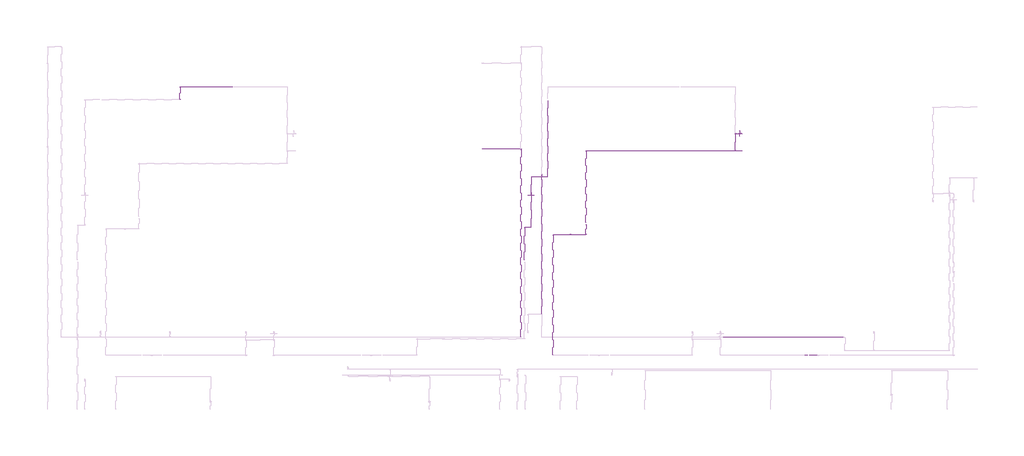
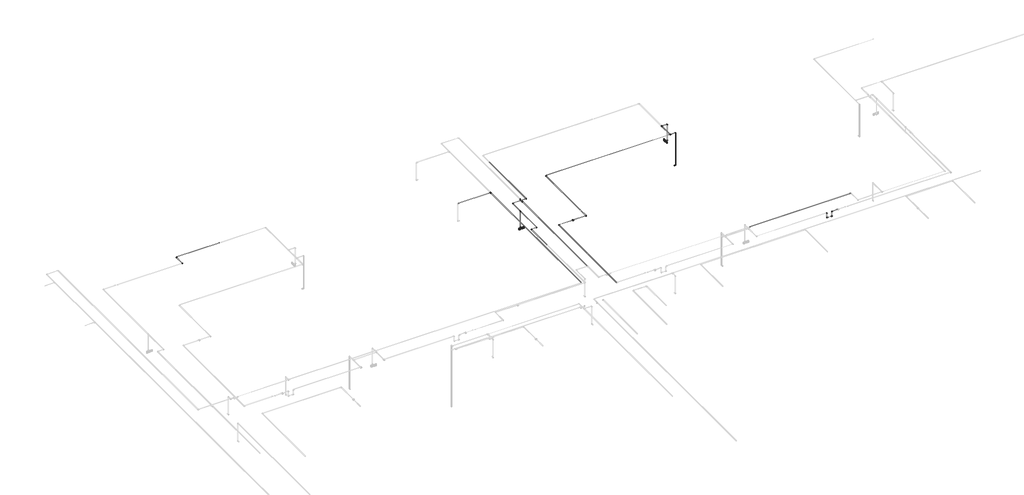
# One storey, part 9 of 13: 35 cable carrier segments, 26 cable carrier fittings, 3 alarms.
"""IFC4 building model written with IfcOpenShell, lengths in millimetres."""

from ifc_helpers import new_model, si_unit, point, frame, frame_2d, origin, place, context, project, spatial, circle_curve, trimmed, segment, composite_curve, outline, extrude, transform, mapped, element, save
from components import alarm_4b7e8fd8, alarm_a2247946, cable_carrier_fitting_69f1a801, cable_carrier_fitting_8122f9af, cable_carrier_fitting_8fd13dfc

model = new_model("IFC4")

# Units and contexts
model_context = context("Model", 3, world=origin())
ifc_project = project(units=[si_unit("LENGTHUNIT", "METRE", prefix="MILLI")], contexts=[model_context])

# Site, building, storey
site = spatial("IfcSite", under=ifc_project)
building = spatial("IfcBuilding", under=site)
storey = spatial("IfcBuildingStorey", under=building, Name="2 этаж", Elevation=3500.0)

# Alarms
placement = place(None, origin())
alarm_shape = alarm_4b7e8fd8(model_context)
element("IfcAlarm", 1, ObjectType="RBZ_Оповещатель_Световой_Рубеж_ОПОП1-R3(грань) : ОПОП 1-R3 \"Выход\"", at=placement, inside=storey, context=model_context, shape_type="MappedRepresentation", body=[
    mapped(alarm_shape, transform((-3772.3240021, 15922.1370105, 6000.0), x_axis=(0.0, -1.0, 0.0), y_axis=(0.0, 0.0, 1.0), z_axis=(-1.0, 0.0, 0.0))),
])
element("IfcAlarm", 2, ObjectType="RBZ_Оповещатель_Световой_Рубеж_ОПОП1-R3(грань) : ОПОП 1-R3 \"Выход\"", at=placement, inside=storey, context=model_context, shape_type="MappedRepresentation", body=[
    mapped(alarm_shape, transform((-13889.8240021, 12944.6370105, 6000.0), x_axis=(1.0, 0.0, 0.0), y_axis=(0.0, 0.0, 1.0), z_axis=(0.0, -1.0, 0.0))),
])
alarm_2_shape = alarm_a2247946(model_context)
element("IfcAlarm", 3, ObjectType="RBZ_ИзоляторШлейфа_Рубеж_ИЗ-1_прот.R3(плоскость) : ИЗ-1 прот.R3", at=placement, inside=storey, context=model_context, shape_type="MappedRepresentation", body=[
    mapped(alarm_2_shape, transform((-11992.3240021, 11020.3380679, 6997.7), x_axis=(1.0, 0.0, 0.0), y_axis=(0.0, 1.0, 0.0), z_axis=(0.0, 0.0, 1.0))),
])

# Cable carrier fittings
cable_carrier_fitting_shape = cable_carrier_fitting_69f1a801(model_context)
element("IfcCableCarrierFitting", 4, ObjectType="ADSK_Поворот_Минимальный размер : Неспецифицируемый", at=placement, inside=storey, context=model_context, shape_type="MappedRepresentation", body=[
    mapped(cable_carrier_fitting_shape, transform((-30925.8240021, 17569.6370105, 6986.95), x_axis=(1.0, 0.0, 0.0), y_axis=(0.0, 1.0, 0.0), z_axis=(0.0, 0.0, 1.0))),
])
element("IfcCableCarrierFitting", 5, ObjectType="ADSK_Поворот_Минимальный размер : Неспецифицируемый", at=placement, inside=storey, context=model_context, shape_type="MappedRepresentation", body=[
    mapped(cable_carrier_fitting_shape, transform((-30925.8240021, 18189.6370105, 6986.95), x_axis=(-1.0, 0.0, 0.0), y_axis=(0.0, -1.0, 0.0), z_axis=(0.0, 0.0, 1.0))),
])
element("IfcCableCarrierFitting", 6, ObjectType="ADSK_Поворот_Минимальный размер : Неспецифицируемый", at=placement, inside=storey, context=model_context, shape_type="MappedRepresentation", body=[
    mapped(cable_carrier_fitting_shape, transform((-13889.8240021, 13823.1370105, 6984.65), x_axis=(-1.0, 0.0, 0.0), y_axis=(0.0, -1.0, 0.0), z_axis=(0.0, 0.0, 1.0))),
])
element("IfcCableCarrierFitting", 7, ObjectType="ADSK_Поворот_Минимальный размер : Неспецифицируемый", at=placement, inside=storey, context=model_context, shape_type="MappedRepresentation", body=[
    mapped(cable_carrier_fitting_shape, transform((-13092.3240021, 13823.1370105, 6984.65), x_axis=(1.0, 0.0, 0.0), y_axis=(0.0, 1.0, 0.0), z_axis=(0.0, 0.0, 1.0))),
])
element("IfcCableCarrierFitting", 8, ObjectType="ADSK_Поворот_Минимальный размер : Неспецифицируемый", at=placement, inside=storey, context=model_context, shape_type="MappedRepresentation", body=[
    mapped(cable_carrier_fitting_shape, transform((-14212.3240021, 11376.1370105, 6984.65), x_axis=(-1.0, 0.0, 0.0), y_axis=(0.0, -1.0, 0.0), z_axis=(0.0, 0.0, 1.0))),
])
element("IfcCableCarrierFitting", 9, ObjectType="ADSK_Поворот_Минимальный размер : Неспецифицируемый", at=placement, inside=storey, context=model_context, shape_type="MappedRepresentation", body=[
    mapped(cable_carrier_fitting_shape, transform((-13889.8240021, 11376.1370105, 6984.65), x_axis=(1.0, 0.0, 0.0), y_axis=(0.0, 1.0, 0.0), z_axis=(0.0, 0.0, 1.0))),
])
element("IfcCableCarrierFitting", 10, ObjectType="ADSK_Поворот_Минимальный размер : Неспецифицируемый", at=placement, inside=storey, context=model_context, shape_type="MappedRepresentation", body=[
    mapped(cable_carrier_fitting_shape, transform((-11227.3240021, 15082.1370105, 6986.95), x_axis=(-1.0, 0.0, 0.0), y_axis=(0.0, -1.0, 0.0), z_axis=(0.0, 0.0, 1.0))),
])
element("IfcCableCarrierFitting", 11, ObjectType="ADSK_Поворот_Минимальный размер : Неспецифицируемый", at=placement, inside=storey, context=model_context, shape_type="MappedRepresentation", body=[
    mapped(cable_carrier_fitting_shape, transform((-11227.3240021, 11020.3380679, 6986.95), x_axis=(1.0, 0.0, 0.0), y_axis=(0.0, 1.0, 0.0), z_axis=(0.0, 0.0, 1.0))),
])
element("IfcCableCarrierFitting", 12, ObjectType="ADSK_Поворот_Минимальный размер : Неспецифицируемый", at=placement, inside=storey, context=model_context, shape_type="MappedRepresentation", body=[
    mapped(cable_carrier_fitting_shape, transform((-606.0238077, 5164.6370105, 6691.5753772), x_axis=(-1.0, 0.0, 0.0), y_axis=(0.0, 0.0, 1.0), z_axis=(0.0, 1.0, 0.0))),
])
element("IfcCableCarrierFitting", 13, ObjectType="ADSK_Поворот_Минимальный размер : Неспецифицируемый", at=placement, inside=storey, context=model_context, shape_type="MappedRepresentation", body=[
    mapped(cable_carrier_fitting_shape, transform((-606.0238077, 5164.6370105, 6990.0), x_axis=(0.0, 0.0, 1.0), y_axis=(-1.0, 0.0, 0.0), z_axis=(0.0, -1.0, 0.0))),
])
element("IfcCableCarrierFitting", 14, ObjectType="ADSK_Поворот_Минимальный размер : Неспецифицируемый", at=placement, inside=storey, context=model_context, shape_type="MappedRepresentation", body=[
    mapped(cable_carrier_fitting_shape, transform((-318.6241965, 5164.6370105, 6691.5753772), x_axis=(1.0, 0.0, 0.0), y_axis=(0.0, 0.0, 1.0), z_axis=(0.0, -1.0, 0.0))),
])
element("IfcCableCarrierFitting", 15, ObjectType="ADSK_Поворот_Минимальный размер : Неспецифицируемый", at=placement, inside=storey, context=model_context, shape_type="MappedRepresentation", body=[
    mapped(cable_carrier_fitting_shape, transform((-318.6241965, 5164.6370105, 6986.95), x_axis=(0.0, 0.0, 1.0), y_axis=(1.0, 0.0, 0.0), z_axis=(0.0, 1.0, 0.0))),
])
element("IfcCableCarrierFitting", 16, ObjectType="ADSK_Поворот_Минимальный размер : Неспецифицируемый", at=placement, inside=storey, context=model_context, shape_type="MappedRepresentation", body=[
    mapped(cable_carrier_fitting_shape, transform((-12827.3240021, 11020.3380679, 6986.95), x_axis=(-1.0, 0.0, 0.0), y_axis=(0.0, -1.0, 0.0), z_axis=(0.0, 0.0, 1.0))),
])
element("IfcCableCarrierFitting", 17, ObjectType="ADSK_Поворот_Минимальный размер : Неспецифицируемый", at=placement, inside=storey, context=model_context, shape_type="MappedRepresentation", body=[
    mapped(cable_carrier_fitting_shape, transform((-3675.1241965, 15922.1370105, 6000.0), x_axis=(1.0, 0.0, 0.0), y_axis=(0.0, 0.0, 1.0), z_axis=(0.0, -1.0, 0.0))),
])
element("IfcCableCarrierFitting", 18, ObjectType="ADSK_Поворот_Минимальный размер : Неспецифицируемый", at=placement, inside=storey, context=model_context, shape_type="MappedRepresentation", body=[
    mapped(cable_carrier_fitting_shape, transform((-3675.1241965, 15922.1370105, 6986.95), x_axis=(0.0, 0.0, 1.0), y_axis=(-1.0, 0.0, 0.0), z_axis=(0.0, -1.0, 0.0))),
])
element("IfcCableCarrierFitting", 19, ObjectType="ADSK_Поворот_Минимальный размер : Неспецифицируемый", at=placement, inside=storey, context=model_context, shape_type="MappedRepresentation", body=[
    mapped(cable_carrier_fitting_shape, transform((-3675.1241965, 15082.1370105, 5000.0), x_axis=(1.0, 0.0, 0.0), y_axis=(0.0, 0.0, 1.0), z_axis=(0.0, -1.0, 0.0))),
])
element("IfcCableCarrierFitting", 20, ObjectType="ADSK_Поворот_Минимальный размер : Неспецифицируемый", at=placement, inside=storey, context=model_context, shape_type="MappedRepresentation", body=[
    mapped(cable_carrier_fitting_shape, transform((-3675.1241965, 15082.1370105, 6986.95), x_axis=(0.0, 0.0, 1.0), y_axis=(-1.0, 0.0, 0.0), z_axis=(0.0, -1.0, 0.0))),
])
element("IfcCableCarrierFitting", 21, ObjectType="ADSK_Поворот_Минимальный размер : Неспецифицируемый", at=placement, inside=storey, context=model_context, shape_type="MappedRepresentation", body=[
    mapped(cable_carrier_fitting_shape, transform((-13889.8240021, 13041.8368161, 6000.0), x_axis=(0.0, 1.0, 0.0), y_axis=(0.0, 0.0, 1.0), z_axis=(1.0, 0.0, 0.0))),
])
cable_carrier_fitting_2_shape = cable_carrier_fitting_8122f9af(model_context)
element("IfcCableCarrierFitting", 22, ObjectType="ADSK_Поворот_Минимальный размер : Неспецифицируемый", at=placement, inside=storey, context=model_context, shape_type="MappedRepresentation", body=[
    mapped(cable_carrier_fitting_2_shape, transform((-13382.3240021, 13889.7092818, 6940.0), x_axis=(0.0, -0.7071067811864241, -0.7071067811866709), y_axis=(0.0, -0.7071067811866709, 0.7071067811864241), z_axis=(-1.0, 0.0, 0.0))),
])
element("IfcCableCarrierFitting", 23, ObjectType="ADSK_Поворот_Минимальный размер : Неспецифицируемый", at=placement, inside=storey, context=model_context, shape_type="MappedRepresentation", body=[
    mapped(cable_carrier_fitting_2_shape, transform((-13382.3240021, 13756.5647393, 6940.0), x_axis=(0.0, -1.0, 0.0), y_axis=(0.0, 0.0, 1.0), z_axis=(-1.0, 0.0, 0.0))),
])
element("IfcCableCarrierFitting", 24, ObjectType="ADSK_Поворот_Минимальный размер : Неспецифицируемый", at=placement, inside=storey, context=model_context, shape_type="MappedRepresentation", body=[
    mapped(cable_carrier_fitting_2_shape, transform((-13382.3240021, 13706.5647393, 6990.0), x_axis=(0.0, -0.7071067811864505, 0.7071067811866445), y_axis=(0.0, -0.7071067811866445, -0.7071067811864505), z_axis=(1.0, 0.0, 0.0))),
])
element("IfcCableCarrierFitting", 25, ObjectType="ADSK_Поворот_Минимальный размер : Неспецифицируемый", at=placement, inside=storey, context=model_context, shape_type="MappedRepresentation", body=[
    mapped(cable_carrier_fitting_2_shape, transform((-13382.3240021, 13939.7092818, 6990.0), x_axis=(0.0, 0.7071067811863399, 0.7071067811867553), y_axis=(0.0, 0.7071067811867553, -0.7071067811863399), z_axis=(-1.0, 0.0, 0.0))),
])
cable_carrier_fitting_3_shape = cable_carrier_fitting_8fd13dfc(model_context)
element("IfcCableCarrierFitting", 26, ObjectType="ADSK_Тройник : ПВХ", at=placement, inside=storey, context=model_context, shape_type="MappedRepresentation", body=[
    mapped(cable_carrier_fitting_3_shape, transform((-14382.3240021, 15172.1370105, 6990.0), x_axis=(0.0, -1.0, 0.0), y_axis=(1.0, 0.0, 0.0), z_axis=(0.0, 0.0, 1.0))),
])
element("IfcCableCarrierFitting", 27, ObjectType="ADSK_Тройник : ПВХ", at=placement, inside=storey, context=model_context, shape_type="MappedRepresentation", body=[
    mapped(cable_carrier_fitting_3_shape, transform((-3999.8077923, 15922.1370105, 6986.95), x_axis=(0.0, 1.0, 0.0), y_axis=(-1.0, 0.0, 0.0), z_axis=(0.0, 0.0, 1.0))),
])
element("IfcCableCarrierFitting", 28, ObjectType="ADSK_Тройник : ПВХ", at=placement, inside=storey, context=model_context, shape_type="MappedRepresentation", body=[
    mapped(cable_carrier_fitting_3_shape, transform((-3999.8077923, 15082.1370105, 6986.95), x_axis=(-1.0, 0.0, 0.0), y_axis=(0.0, -1.0, 0.0), z_axis=(0.0, 0.0, 1.0))),
])
element("IfcCableCarrierFitting", 29, ObjectType="ADSK_Тройник : ПВХ", at=placement, inside=storey, context=model_context, shape_type="MappedRepresentation", body=[
    mapped(cable_carrier_fitting_3_shape, transform((-13889.8240021, 13041.8368161, 6984.65), x_axis=(0.0, -1.0, 0.0), y_axis=(0.0, 0.0, 1.0), z_axis=(-1.0, 0.0, 0.0))),
])

# Cable carrier segments
element("IfcCableCarrierSegment", 30, ObjectType="Гофрированная труба", at=placement, inside=storey, context=model_context, shape_type="SweptSolid", body=[
    extrude(outline(composite_curve([segment(trimmed(circle_curve(frame_2d((6986.95, -30925.8240021)), 10.0), [point((6986.95, -30915.8240021))], [point((6996.95, -30925.8240021))], False, "CARTESIAN"), True, "CONTINUOUS"), segment(trimmed(circle_curve(frame_2d((6986.95, -30925.8240021)), 10.0), [point((6996.95, -30925.8240021))], [point((6986.95, -30935.8240021))], False, "CARTESIAN"), True, "CONTINUOUS"), segment(trimmed(circle_curve(frame_2d((6986.95, -30925.8240021)), 10.0), [point((6986.95, -30935.8240021))], [point((6976.95, -30925.8240021))], False, "CARTESIAN"), True, "CONTINUOUS"), segment(trimmed(circle_curve(frame_2d((6986.95, -30925.8240021)), 10.0), [point((6976.95, -30925.8240021))], [point((6986.95, -30915.8240021))], False, "CARTESIAN"), True, "CONTINUOUS")], self_intersect=False)), frame((0.0, 17590.6370105, 0.0), z_axis=(0.0, 1.0, 0.0), x_axis=(0.0, 0.0, 1.0)), (0.0, 0.0, 1.0), 578.0),
])
element("IfcCableCarrierSegment", 31, ObjectType="Гофрированная труба", at=placement, inside=storey, context=model_context, shape_type="SweptSolid", body=[
    extrude(outline(composite_curve([segment(trimmed(circle_curve(frame_2d((18189.6370105, 6986.95)), 10.0), [point((18179.6370105, 6986.95))], [point((18189.6370105, 6996.95))], False, "CARTESIAN"), True, "CONTINUOUS"), segment(trimmed(circle_curve(frame_2d((18189.6370105, 6986.95)), 10.0), [point((18189.6370105, 6996.95))], [point((18199.6370105, 6986.95))], False, "CARTESIAN"), True, "CONTINUOUS"), segment(trimmed(circle_curve(frame_2d((18189.6370105, 6986.95)), 10.0), [point((18199.6370105, 6986.95))], [point((18189.6370105, 6976.95))], False, "CARTESIAN"), True, "CONTINUOUS"), segment(trimmed(circle_curve(frame_2d((18189.6370105, 6986.95)), 10.0), [point((18189.6370105, 6976.95))], [point((18179.6370105, 6986.95))], False, "CARTESIAN"), True, "CONTINUOUS")], self_intersect=False)), frame((-30904.8240021, 0.0, 0.0), z_axis=(1.0, 0.0, 0.0), x_axis=(0.0, 1.0, 0.0)), (0.0, 0.0, 1.0), 2506.0),
])
element("IfcCableCarrierSegment", 32, ObjectType="Гофрированная труба", at=placement, inside=storey, context=model_context, shape_type="SweptSolid", body=[
    extrude(outline(composite_curve([segment(trimmed(circle_curve(frame_2d((0.0, -10.0)), 10.0), [point((0.0, 0.0))], [point((10.0, -10.0))], False, "CARTESIAN"), True, "CONTINUOUS"), segment(trimmed(circle_curve(frame_2d((0.0, -10.0)), 10.0), [point((10.0, -10.0))], [point((0.0, -20.0))], False, "CARTESIAN"), True, "CONTINUOUS"), segment(trimmed(circle_curve(frame_2d((0.0, -10.0)), 10.0), [point((0.0, -20.0))], [point((-10.0, -10.0))], False, "CARTESIAN"), True, "CONTINUOUS"), segment(trimmed(circle_curve(frame_2d((0.0, -10.0)), 10.0), [point((-10.0, -10.0))], [point((0.0, 0.0))], False, "CARTESIAN"), True, "CONTINUOUS")], self_intersect=False)), frame((-13102.3240021, 13844.1370105, 6984.65), z_axis=(0.0, 0.999999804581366, 0.0006251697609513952), x_axis=(0.0, 0.0006251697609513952, -0.999999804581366)), (0.0, 0.0, 1.0), 3679.0007189),
])
element("IfcCableCarrierSegment", 33, ObjectType="Гофрированная труба", at=placement, inside=storey, context=model_context, shape_type="SweptSolid", body=[
    extrude(outline(composite_curve([segment(trimmed(circle_curve(frame_2d((13823.1370105, 6984.65)), 10.0), [point((13813.1370105, 6984.65))], [point((13823.1370105, 6994.65))], False, "CARTESIAN"), True, "CONTINUOUS"), segment(trimmed(circle_curve(frame_2d((13823.1370105, 6984.65)), 10.0), [point((13823.1370105, 6994.65))], [point((13833.1370105, 6984.65))], False, "CARTESIAN"), True, "CONTINUOUS"), segment(trimmed(circle_curve(frame_2d((13823.1370105, 6984.65)), 10.0), [point((13833.1370105, 6984.65))], [point((13823.1370105, 6974.65))], False, "CARTESIAN"), True, "CONTINUOUS"), segment(trimmed(circle_curve(frame_2d((13823.1370105, 6984.65)), 10.0), [point((13823.1370105, 6974.65))], [point((13813.1370105, 6984.65))], False, "CARTESIAN"), True, "CONTINUOUS")], self_intersect=False)), frame((-13868.8240021, 0.0, 0.0), z_axis=(1.0, 0.0, 0.0), x_axis=(0.0, 1.0, 0.0)), (0.0, 0.0, 1.0), 755.5),
])
element("IfcCableCarrierSegment", 34, ObjectType="Гофрированная труба", at=placement, inside=storey, context=model_context, shape_type="SweptSolid", body=[
    extrude(outline(composite_curve([segment(trimmed(circle_curve(frame_2d((6984.65, -14212.3240021)), 10.0), [point((6984.65, -14202.3240021))], [point((6994.65, -14212.3240021))], False, "CARTESIAN"), True, "CONTINUOUS"), segment(trimmed(circle_curve(frame_2d((6984.65, -14212.3240021)), 10.0), [point((6994.65, -14212.3240021))], [point((6984.65, -14222.3240021))], False, "CARTESIAN"), True, "CONTINUOUS"), segment(trimmed(circle_curve(frame_2d((6984.65, -14212.3240021)), 10.0), [point((6984.65, -14222.3240021))], [point((6974.65, -14212.3240021))], False, "CARTESIAN"), True, "CONTINUOUS"), segment(trimmed(circle_curve(frame_2d((6984.65, -14212.3240021)), 10.0), [point((6974.65, -14212.3240021))], [point((6984.65, -14202.3240021))], False, "CARTESIAN"), True, "CONTINUOUS")], self_intersect=False)), frame((0.0, 9776.1370105, 0.0), z_axis=(0.0, 1.0, 0.0), x_axis=(0.0, 0.0, 1.0)), (0.0, 0.0, 1.0), 1579.0),
])
element("IfcCableCarrierSegment", 35, ObjectType="Гофрированная труба", at=placement, inside=storey, context=model_context, shape_type="SweptSolid", body=[
    extrude(outline(composite_curve([segment(trimmed(circle_curve(frame_2d((11376.1370105, 6984.65)), 10.0), [point((11366.1370105, 6984.65))], [point((11376.1370105, 6994.65))], False, "CARTESIAN"), True, "CONTINUOUS"), segment(trimmed(circle_curve(frame_2d((11376.1370105, 6984.65)), 10.0), [point((11376.1370105, 6994.65))], [point((11386.1370105, 6984.65))], False, "CARTESIAN"), True, "CONTINUOUS"), segment(trimmed(circle_curve(frame_2d((11376.1370105, 6984.65)), 10.0), [point((11386.1370105, 6984.65))], [point((11376.1370105, 6974.65))], False, "CARTESIAN"), True, "CONTINUOUS"), segment(trimmed(circle_curve(frame_2d((11376.1370105, 6984.65)), 10.0), [point((11376.1370105, 6974.65))], [point((11366.1370105, 6984.65))], False, "CARTESIAN"), True, "CONTINUOUS")], self_intersect=False)), frame((-14191.3240021, 0.0, 0.0), z_axis=(1.0, 0.0, 0.0), x_axis=(0.0, 1.0, 0.0)), (0.0, 0.0, 1.0), 280.5),
])
element("IfcCableCarrierSegment", 36, ObjectType="Гофрированная труба", at=placement, inside=storey, context=model_context, shape_type="SweptSolid", body=[
    extrude(outline(composite_curve([segment(trimmed(circle_curve(frame_2d((6986.95, -11227.3240021)), 10.0), [point((6986.95, -11217.3240021))], [point((6996.95, -11227.3240021))], False, "CARTESIAN"), True, "CONTINUOUS"), segment(trimmed(circle_curve(frame_2d((6986.95, -11227.3240021)), 10.0), [point((6996.95, -11227.3240021))], [point((6986.95, -11237.3240021))], False, "CARTESIAN"), True, "CONTINUOUS"), segment(trimmed(circle_curve(frame_2d((6986.95, -11227.3240021)), 10.0), [point((6986.95, -11237.3240021))], [point((6976.95, -11227.3240021))], False, "CARTESIAN"), True, "CONTINUOUS"), segment(trimmed(circle_curve(frame_2d((6986.95, -11227.3240021)), 10.0), [point((6976.95, -11227.3240021))], [point((6986.95, -11217.3240021))], False, "CARTESIAN"), True, "CONTINUOUS")], self_intersect=False)), frame((0.0, 11613.3380679, 0.0), z_axis=(0.0, 1.0, 0.0), x_axis=(0.0, 0.0, 1.0)), (0.0, 0.0, 1.0), 3447.7989426),
])
element("IfcCableCarrierSegment", 37, ObjectType="Гофрированная труба", at=placement, inside=storey, context=model_context, shape_type="SweptSolid", body=[
    extrude(outline(composite_curve([segment(trimmed(circle_curve(frame_2d((6986.95, -11227.3240021)), 10.0), [point((6986.95, -11237.3240021))], [point((6976.95, -11227.3240021))], False, "CARTESIAN"), True, "CONTINUOUS"), segment(trimmed(circle_curve(frame_2d((6986.95, -11227.3240021)), 10.0), [point((6976.95, -11227.3240021))], [point((6986.95, -11217.3240021))], False, "CARTESIAN"), True, "CONTINUOUS"), segment(trimmed(circle_curve(frame_2d((6986.95, -11227.3240021)), 10.0), [point((6986.95, -11217.3240021))], [point((6996.95, -11227.3240021))], False, "CARTESIAN"), True, "CONTINUOUS"), segment(trimmed(circle_curve(frame_2d((6986.95, -11227.3240021)), 10.0), [point((6996.95, -11227.3240021))], [point((6986.95, -11237.3240021))], False, "CARTESIAN"), True, "CONTINUOUS")], self_intersect=False)), frame((0.0, 11041.3380679, 0.0), z_axis=(0.0, 1.0, 0.0), x_axis=(0.0, 0.0, 1.0)), (0.0, 0.0, 1.0), 479.0),
])
element("IfcCableCarrierSegment", 38, ObjectType="Гофрированная труба", at=placement, inside=storey, context=model_context, shape_type="SweptSolid", body=[
    extrude(outline(composite_curve([segment(trimmed(circle_curve(frame_2d((11020.3380679, 6986.95)), 10.0), [point((11010.3380679, 6986.95))], [point((11020.3380679, 6996.95))], False, "CARTESIAN"), True, "CONTINUOUS"), segment(trimmed(circle_curve(frame_2d((11020.3380679, 6986.95)), 10.0), [point((11020.3380679, 6996.95))], [point((11030.3380679, 6986.95))], False, "CARTESIAN"), True, "CONTINUOUS"), segment(trimmed(circle_curve(frame_2d((11020.3380679, 6986.95)), 10.0), [point((11030.3380679, 6986.95))], [point((11020.3380679, 6976.95))], False, "CARTESIAN"), True, "CONTINUOUS"), segment(trimmed(circle_curve(frame_2d((11020.3380679, 6986.95)), 10.0), [point((11020.3380679, 6976.95))], [point((11010.3380679, 6986.95))], False, "CARTESIAN"), True, "CONTINUOUS")], self_intersect=False)), frame((-12806.3240021, 0.0, 0.0), z_axis=(1.0, 0.0, 0.0), x_axis=(0.0, 1.0, 0.0)), (0.0, 0.0, 1.0), 788.0),
])
element("IfcCableCarrierSegment", 39, ObjectType="Гофрированная труба", at=placement, inside=storey, context=model_context, shape_type="SweptSolid", body=[
    extrude(outline(composite_curve([segment(trimmed(circle_curve(frame_2d((6986.95, -12827.3240021)), 10.0), [point((6986.95, -12817.3240021))], [point((6996.95, -12827.3240021))], False, "CARTESIAN"), True, "CONTINUOUS"), segment(trimmed(circle_curve(frame_2d((6986.95, -12827.3240021)), 10.0), [point((6996.95, -12827.3240021))], [point((6986.95, -12837.3240021))], False, "CARTESIAN"), True, "CONTINUOUS"), segment(trimmed(circle_curve(frame_2d((6986.95, -12827.3240021)), 10.0), [point((6986.95, -12837.3240021))], [point((6976.95, -12827.3240021))], False, "CARTESIAN"), True, "CONTINUOUS"), segment(trimmed(circle_curve(frame_2d((6986.95, -12827.3240021)), 10.0), [point((6976.95, -12827.3240021))], [point((6986.95, -12817.3240021))], False, "CARTESIAN"), True, "CONTINUOUS")], self_intersect=False)), frame((0.0, 5185.6370105, 0.0), z_axis=(0.0, 1.0, 0.0), x_axis=(0.0, 0.0, 1.0)), (0.0, 0.0, 1.0), 5813.7010574),
])
element("IfcCableCarrierSegment", 40, ObjectType="Гофрированная труба", at=placement, inside=storey, context=model_context, shape_type="SweptSolid", body=[
    extrude(outline(composite_curve([segment(trimmed(circle_curve(frame_2d((5164.6370105, 6691.5753772)), 10.0), [point((5174.6370105, 6691.5753772))], [point((5164.6370105, 6681.5753772))], False, "CARTESIAN"), True, "CONTINUOUS"), segment(trimmed(circle_curve(frame_2d((5164.6370105, 6691.5753772)), 10.0), [point((5164.6370105, 6681.5753772))], [point((5154.6370105, 6691.5753772))], False, "CARTESIAN"), True, "CONTINUOUS"), segment(trimmed(circle_curve(frame_2d((5164.6370105, 6691.5753772)), 10.0), [point((5154.6370105, 6691.5753772))], [point((5164.6370105, 6701.5753772))], False, "CARTESIAN"), True, "CONTINUOUS"), segment(trimmed(circle_curve(frame_2d((5164.6370105, 6691.5753772)), 10.0), [point((5164.6370105, 6701.5753772))], [point((5174.6370105, 6691.5753772))], False, "CARTESIAN"), True, "CONTINUOUS")], self_intersect=False)), frame((-585.0238077, 0.0, 0.0), z_axis=(1.0, 0.0, 0.0), x_axis=(0.0, 1.0, 0.0)), (0.0, 0.0, 1.0), 76.1998056),
])
element("IfcCableCarrierSegment", 41, ObjectType="Гофрированная труба", at=placement, inside=storey, context=model_context, shape_type="SweptSolid", body=[
    extrude(outline(composite_curve([segment(trimmed(circle_curve(frame_2d((-606.0238077, 5164.6370105)), 10.0), [point((-616.0238077, 5164.6370105))], [point((-606.0238077, 5174.6370105))], False, "CARTESIAN"), True, "CONTINUOUS"), segment(trimmed(circle_curve(frame_2d((-606.0238077, 5164.6370105)), 10.0), [point((-606.0238077, 5174.6370105))], [point((-596.0238077, 5164.6370105))], False, "CARTESIAN"), True, "CONTINUOUS"), segment(trimmed(circle_curve(frame_2d((-606.0238077, 5164.6370105)), 10.0), [point((-596.0238077, 5164.6370105))], [point((-606.0238077, 5154.6370105))], False, "CARTESIAN"), True, "CONTINUOUS"), segment(trimmed(circle_curve(frame_2d((-606.0238077, 5164.6370105)), 10.0), [point((-606.0238077, 5154.6370105))], [point((-616.0238077, 5164.6370105))], False, "CARTESIAN"), True, "CONTINUOUS")], self_intersect=False)), frame((0.0, 0.0, 6712.5753772), z_axis=(0.0, 0.0, 1.0), x_axis=(1.0, 0.0, 0.0)), (0.0, 0.0, 1.0), 256.4246228),
])
element("IfcCableCarrierSegment", 42, ObjectType="Гофрированная труба", at=placement, inside=storey, context=model_context, shape_type="SweptSolid", body=[
    extrude(outline(composite_curve([segment(trimmed(circle_curve(frame_2d((5164.6370105, 6986.95)), 10.0), [point((5174.6370105, 6986.95))], [point((5164.6370105, 6976.95))], False, "CARTESIAN"), True, "CONTINUOUS"), segment(trimmed(circle_curve(frame_2d((5164.6370105, 6986.95)), 10.0), [point((5164.6370105, 6976.95))], [point((5154.6370105, 6986.95))], False, "CARTESIAN"), True, "CONTINUOUS"), segment(trimmed(circle_curve(frame_2d((5164.6370105, 6986.95)), 10.0), [point((5154.6370105, 6986.95))], [point((5164.6370105, 6996.95))], False, "CARTESIAN"), True, "CONTINUOUS"), segment(trimmed(circle_curve(frame_2d((5164.6370105, 6986.95)), 10.0), [point((5164.6370105, 6996.95))], [point((5174.6370105, 6986.95))], False, "CARTESIAN"), True, "CONTINUOUS")], self_intersect=False)), frame((-297.6241965, 0.0, 0.0), z_axis=(1.0, 0.0, 0.0), x_axis=(0.0, 1.0, 0.0)), (0.0, 0.0, 1.0), 308.4934771),
])
element("IfcCableCarrierSegment", 43, ObjectType="Гофрированная труба", at=placement, inside=storey, context=model_context, shape_type="SweptSolid", body=[
    extrude(outline(composite_curve([segment(trimmed(circle_curve(frame_2d((5164.6370105, 6691.5753772)), 10.0), [point((5154.6370105, 6691.5753772))], [point((5164.6370105, 6701.5753772))], False, "CARTESIAN"), True, "CONTINUOUS"), segment(trimmed(circle_curve(frame_2d((5164.6370105, 6691.5753772)), 10.0), [point((5164.6370105, 6701.5753772))], [point((5174.6370105, 6691.5753772))], False, "CARTESIAN"), True, "CONTINUOUS"), segment(trimmed(circle_curve(frame_2d((5164.6370105, 6691.5753772)), 10.0), [point((5174.6370105, 6691.5753772))], [point((5164.6370105, 6681.5753772))], False, "CARTESIAN"), True, "CONTINUOUS"), segment(trimmed(circle_curve(frame_2d((5164.6370105, 6691.5753772)), 10.0), [point((5164.6370105, 6681.5753772))], [point((5154.6370105, 6691.5753772))], False, "CARTESIAN"), True, "CONTINUOUS")], self_intersect=False)), frame((-415.8240021, 0.0, 0.0), z_axis=(1.0, 0.0, 0.0), x_axis=(0.0, 1.0, 0.0)), (0.0, 0.0, 1.0), 76.1998056),
])
element("IfcCableCarrierSegment", 44, ObjectType="Гофрированная труба", at=placement, inside=storey, context=model_context, shape_type="SweptSolid", body=[
    extrude(outline(composite_curve([segment(trimmed(circle_curve(frame_2d((-318.6241965, 5164.6370105)), 10.0), [point((-328.6241965, 5164.6370105))], [point((-318.6241965, 5174.6370105))], False, "CARTESIAN"), True, "CONTINUOUS"), segment(trimmed(circle_curve(frame_2d((-318.6241965, 5164.6370105)), 10.0), [point((-318.6241965, 5174.6370105))], [point((-308.6241965, 5164.6370105))], False, "CARTESIAN"), True, "CONTINUOUS"), segment(trimmed(circle_curve(frame_2d((-318.6241965, 5164.6370105)), 10.0), [point((-308.6241965, 5164.6370105))], [point((-318.6241965, 5154.6370105))], False, "CARTESIAN"), True, "CONTINUOUS"), segment(trimmed(circle_curve(frame_2d((-318.6241965, 5164.6370105)), 10.0), [point((-318.6241965, 5154.6370105))], [point((-328.6241965, 5164.6370105))], False, "CARTESIAN"), True, "CONTINUOUS")], self_intersect=False)), frame((0.0, 0.0, 6712.5753772), z_axis=(0.0, 0.0, 1.0), x_axis=(1.0, 0.0, 0.0)), (0.0, 0.0, 1.0), 253.3746228),
])
element("IfcCableCarrierSegment", 45, ObjectType="Гофрированная труба", at=placement, inside=storey, context=model_context, shape_type="SweptSolid", body=[
    extrude(outline(composite_curve([segment(trimmed(circle_curve(frame_2d((11020.3380679, 6986.95)), 10.0), [point((11030.3380679, 6986.95))], [point((11020.3380679, 6976.95))], False, "CARTESIAN"), True, "CONTINUOUS"), segment(trimmed(circle_curve(frame_2d((11020.3380679, 6986.95)), 10.0), [point((11020.3380679, 6976.95))], [point((11010.3380679, 6986.95))], False, "CARTESIAN"), True, "CONTINUOUS"), segment(trimmed(circle_curve(frame_2d((11020.3380679, 6986.95)), 10.0), [point((11010.3380679, 6986.95))], [point((11020.3380679, 6996.95))], False, "CARTESIAN"), True, "CONTINUOUS"), segment(trimmed(circle_curve(frame_2d((11020.3380679, 6986.95)), 10.0), [point((11020.3380679, 6996.95))], [point((11030.3380679, 6986.95))], False, "CARTESIAN"), True, "CONTINUOUS")], self_intersect=False)), frame((-11966.3240021, 0.0, 0.0), z_axis=(1.0, 0.0, 0.0), x_axis=(0.0, 1.0, 0.0)), (0.0, 0.0, 1.0), 718.0),
])
element("IfcCableCarrierSegment", 46, ObjectType="Гофрированная труба", at=placement, inside=storey, context=model_context, shape_type="SweptSolid", body=[
    extrude(outline(composite_curve([segment(trimmed(circle_curve(frame_2d((15172.1370105, 6990.0)), 10.0), [point((15182.1370105, 6990.0))], [point((15172.1370105, 6980.0))], False, "CARTESIAN"), True, "CONTINUOUS"), segment(trimmed(circle_curve(frame_2d((15172.1370105, 6990.0)), 10.0), [point((15172.1370105, 6980.0))], [point((15162.1370105, 6990.0))], False, "CARTESIAN"), True, "CONTINUOUS"), segment(trimmed(circle_curve(frame_2d((15172.1370105, 6990.0)), 10.0), [point((15162.1370105, 6990.0))], [point((15172.1370105, 7000.0))], False, "CARTESIAN"), True, "CONTINUOUS"), segment(trimmed(circle_curve(frame_2d((15172.1370105, 6990.0)), 10.0), [point((15172.1370105, 7000.0))], [point((15182.1370105, 6990.0))], False, "CARTESIAN"), True, "CONTINUOUS")], self_intersect=False)), frame((-16268.5238077, 0.0, 0.0), z_axis=(1.0, 0.0, 0.0), x_axis=(0.0, 1.0, 0.0)), (0.0, 0.0, 1.0), 1856.1998056),
])
element("IfcCableCarrierSegment", 47, ObjectType="Гофрированная труба", at=placement, inside=storey, context=model_context, shape_type="SweptSolid", body=[
    extrude(outline(composite_curve([segment(trimmed(circle_curve(frame_2d((6990.0, -14382.3240021)), 10.0), [point((6990.0, -14372.3240021))], [point((7000.0, -14382.3240021))], False, "CARTESIAN"), True, "CONTINUOUS"), segment(trimmed(circle_curve(frame_2d((6990.0, -14382.3240021)), 10.0), [point((7000.0, -14382.3240021))], [point((6990.0, -14392.3240021))], False, "CARTESIAN"), True, "CONTINUOUS"), segment(trimmed(circle_curve(frame_2d((6990.0, -14382.3240021)), 10.0), [point((6990.0, -14392.3240021))], [point((6980.0, -14382.3240021))], False, "CARTESIAN"), True, "CONTINUOUS"), segment(trimmed(circle_curve(frame_2d((6990.0, -14382.3240021)), 10.0), [point((6980.0, -14382.3240021))], [point((6990.0, -14372.3240021))], False, "CARTESIAN"), True, "CONTINUOUS")], self_intersect=False)), frame((0.0, 6058.6221207, 0.0), z_axis=(0.0, 1.0, 0.0), x_axis=(0.0, 0.0, 1.0)), (0.0, 0.0, 1.0), 9083.5148898),
])
element("IfcCableCarrierSegment", 48, ObjectType="Гофрированная труба", at=placement, inside=storey, context=model_context, shape_type="SweptSolid", body=[
    extrude(outline(composite_curve([segment(trimmed(circle_curve(frame_2d((6940.0, -13382.3240021)), 10.0), [point((6940.0, -13392.3240021))], [point((6930.0, -13382.3240021))], False, "CARTESIAN"), True, "CONTINUOUS"), segment(trimmed(circle_curve(frame_2d((6940.0, -13382.3240021)), 10.0), [point((6930.0, -13382.3240021))], [point((6940.0, -13372.3240021))], False, "CARTESIAN"), True, "CONTINUOUS"), segment(trimmed(circle_curve(frame_2d((6940.0, -13382.3240021)), 10.0), [point((6940.0, -13372.3240021))], [point((6950.0, -13382.3240021))], False, "CARTESIAN"), True, "CONTINUOUS"), segment(trimmed(circle_curve(frame_2d((6940.0, -13382.3240021)), 10.0), [point((6950.0, -13382.3240021))], [point((6940.0, -13392.3240021))], False, "CARTESIAN"), True, "CONTINUOUS")], self_intersect=False)), frame((0.0, 13765.8490105, 0.0), z_axis=(0.0, 1.0, 0.0), x_axis=(0.0, 0.0, 1.0)), (0.0, 0.0, 1.0), 114.576),
])
element("IfcCableCarrierSegment", 49, ObjectType="Гофрированная труба", at=placement, inside=storey, context=model_context, shape_type="SweptSolid", body=[
    extrude(outline(composite_curve([segment(trimmed(circle_curve(frame_2d((6037.6221207, 6990.0)), 10.0), [point((6027.6221207, 6990.0))], [point((6037.6221207, 7000.0))], False, "CARTESIAN"), True, "CONTINUOUS"), segment(trimmed(circle_curve(frame_2d((6037.6221207, 6990.0)), 10.0), [point((6037.6221207, 7000.0))], [point((6047.6221207, 6990.0))], False, "CARTESIAN"), True, "CONTINUOUS"), segment(trimmed(circle_curve(frame_2d((6037.6221207, 6990.0)), 10.0), [point((6047.6221207, 6990.0))], [point((6037.6221207, 6980.0))], False, "CARTESIAN"), True, "CONTINUOUS"), segment(trimmed(circle_curve(frame_2d((6037.6221207, 6990.0)), 10.0), [point((6037.6221207, 6980.0))], [point((6027.6221207, 6990.0))], False, "CARTESIAN"), True, "CONTINUOUS")], self_intersect=False)), frame((-4586.5371722, 0.0, 0.0), z_axis=(1.0, 0.0, 0.0), x_axis=(0.0, 1.0, 0.0)), (0.0, 0.0, 1.0), 5883.21317),
])
element("IfcCableCarrierSegment", 50, ObjectType="Гофрированная труба", at=placement, inside=storey, context=model_context, shape_type="SweptSolid", body=[
    extrude(outline(composite_curve([segment(trimmed(circle_curve(frame_2d((15922.1370105, 6986.95)), 10.0), [point((15912.1370105, 6986.95))], [point((15922.1370105, 6996.95))], False, "CARTESIAN"), True, "CONTINUOUS"), segment(trimmed(circle_curve(frame_2d((15922.1370105, 6986.95)), 10.0), [point((15922.1370105, 6996.95))], [point((15932.1370105, 6986.95))], False, "CARTESIAN"), True, "CONTINUOUS"), segment(trimmed(circle_curve(frame_2d((15922.1370105, 6986.95)), 10.0), [point((15932.1370105, 6986.95))], [point((15922.1370105, 6976.95))], False, "CARTESIAN"), True, "CONTINUOUS"), segment(trimmed(circle_curve(frame_2d((15922.1370105, 6986.95)), 10.0), [point((15922.1370105, 6976.95))], [point((15912.1370105, 6986.95))], False, "CARTESIAN"), True, "CONTINUOUS")], self_intersect=False)), frame((-3969.8077923, 0.0, 0.0), z_axis=(1.0, 0.0, 0.0), x_axis=(0.0, 1.0, 0.0)), (0.0, 0.0, 1.0), 273.6835958),
])
element("IfcCableCarrierSegment", 51, ObjectType="Гофрированная труба", at=placement, inside=storey, context=model_context, shape_type="SweptSolid", body=[
    extrude(outline(composite_curve([segment(trimmed(circle_curve(frame_2d((15922.1370105, 6000.0)), 10.0), [point((15912.1370105, 6000.0))], [point((15922.1370105, 6010.0))], False, "CARTESIAN"), True, "CONTINUOUS"), segment(trimmed(circle_curve(frame_2d((15922.1370105, 6000.0)), 10.0), [point((15922.1370105, 6010.0))], [point((15932.1370105, 6000.0))], False, "CARTESIAN"), True, "CONTINUOUS"), segment(trimmed(circle_curve(frame_2d((15922.1370105, 6000.0)), 10.0), [point((15932.1370105, 6000.0))], [point((15922.1370105, 5990.0))], False, "CARTESIAN"), True, "CONTINUOUS"), segment(trimmed(circle_curve(frame_2d((15922.1370105, 6000.0)), 10.0), [point((15922.1370105, 5990.0))], [point((15912.1370105, 6000.0))], False, "CARTESIAN"), True, "CONTINUOUS")], self_intersect=False)), frame((-3772.3240021, 0.0, 0.0), z_axis=(1.0, 0.0, 0.0), x_axis=(0.0, 1.0, 0.0)), (0.0, 0.0, 1.0), 76.1998056),
])
element("IfcCableCarrierSegment", 52, ObjectType="Гофрированная труба", at=placement, inside=storey, context=model_context, shape_type="SweptSolid", body=[
    extrude(outline(composite_curve([segment(trimmed(circle_curve(frame_2d((-3675.1241965, 15922.1370105)), 10.0), [point((-3685.1241965, 15922.1370105))], [point((-3675.1241965, 15932.1370105))], False, "CARTESIAN"), True, "CONTINUOUS"), segment(trimmed(circle_curve(frame_2d((-3675.1241965, 15922.1370105)), 10.0), [point((-3675.1241965, 15932.1370105))], [point((-3665.1241965, 15922.1370105))], False, "CARTESIAN"), True, "CONTINUOUS"), segment(trimmed(circle_curve(frame_2d((-3675.1241965, 15922.1370105)), 10.0), [point((-3665.1241965, 15922.1370105))], [point((-3675.1241965, 15912.1370105))], False, "CARTESIAN"), True, "CONTINUOUS"), segment(trimmed(circle_curve(frame_2d((-3675.1241965, 15922.1370105)), 10.0), [point((-3675.1241965, 15912.1370105))], [point((-3685.1241965, 15922.1370105))], False, "CARTESIAN"), True, "CONTINUOUS")], self_intersect=False)), frame((0.0, 0.0, 6021.0), z_axis=(0.0, 0.0, 1.0), x_axis=(1.0, 0.0, 0.0)), (0.0, 0.0, 1.0), 944.95),
])
element("IfcCableCarrierSegment", 53, ObjectType="Гофрированная труба", at=placement, inside=storey, context=model_context, shape_type="SweptSolid", body=[
    extrude(outline(composite_curve([segment(trimmed(circle_curve(frame_2d((6986.95, -3999.8077923)), 10.0), [point((6986.95, -4009.8077923))], [point((6976.95, -3999.8077923))], False, "CARTESIAN"), True, "CONTINUOUS"), segment(trimmed(circle_curve(frame_2d((6986.95, -3999.8077923)), 10.0), [point((6976.95, -3999.8077923))], [point((6986.95, -3989.8077923))], False, "CARTESIAN"), True, "CONTINUOUS"), segment(trimmed(circle_curve(frame_2d((6986.95, -3999.8077923)), 10.0), [point((6986.95, -3989.8077923))], [point((6996.95, -3999.8077923))], False, "CARTESIAN"), True, "CONTINUOUS"), segment(trimmed(circle_curve(frame_2d((6986.95, -3999.8077923)), 10.0), [point((6996.95, -3999.8077923))], [point((6986.95, -4009.8077923))], False, "CARTESIAN"), True, "CONTINUOUS")], self_intersect=False)), frame((0.0, 15112.1370105, 0.0), z_axis=(0.0, 1.0, 0.0), x_axis=(0.0, 0.0, 1.0)), (0.0, 0.0, 1.0), 780.0),
])
element("IfcCableCarrierSegment", 54, ObjectType="Гофрированная труба", at=placement, inside=storey, context=model_context, shape_type="SweptSolid", body=[
    extrude(outline(composite_curve([segment(trimmed(circle_curve(frame_2d((15082.1370105, 6986.95)), 10.0), [point((15072.1370105, 6986.95))], [point((15082.1370105, 6996.95))], False, "CARTESIAN"), True, "CONTINUOUS"), segment(trimmed(circle_curve(frame_2d((15082.1370105, 6986.95)), 10.0), [point((15082.1370105, 6996.95))], [point((15092.1370105, 6986.95))], False, "CARTESIAN"), True, "CONTINUOUS"), segment(trimmed(circle_curve(frame_2d((15082.1370105, 6986.95)), 10.0), [point((15092.1370105, 6986.95))], [point((15082.1370105, 6976.95))], False, "CARTESIAN"), True, "CONTINUOUS"), segment(trimmed(circle_curve(frame_2d((15082.1370105, 6986.95)), 10.0), [point((15082.1370105, 6976.95))], [point((15072.1370105, 6986.95))], False, "CARTESIAN"), True, "CONTINUOUS")], self_intersect=False)), frame((-3969.8077923, 0.0, 0.0), z_axis=(1.0, 0.0, 0.0), x_axis=(0.0, 1.0, 0.0)), (0.0, 0.0, 1.0), 273.6835958),
])
element("IfcCableCarrierSegment", 55, ObjectType="Гофрированная труба", at=placement, inside=storey, context=model_context, shape_type="SweptSolid", body=[
    extrude(outline(composite_curve([segment(trimmed(circle_curve(frame_2d((15082.1370105, 5000.0)), 10.0), [point((15072.1370105, 5000.0))], [point((15082.1370105, 5010.0))], False, "CARTESIAN"), True, "CONTINUOUS"), segment(trimmed(circle_curve(frame_2d((15082.1370105, 5000.0)), 10.0), [point((15082.1370105, 5010.0))], [point((15092.1370105, 5000.0))], False, "CARTESIAN"), True, "CONTINUOUS"), segment(trimmed(circle_curve(frame_2d((15082.1370105, 5000.0)), 10.0), [point((15092.1370105, 5000.0))], [point((15082.1370105, 4990.0))], False, "CARTESIAN"), True, "CONTINUOUS"), segment(trimmed(circle_curve(frame_2d((15082.1370105, 5000.0)), 10.0), [point((15082.1370105, 4990.0))], [point((15072.1370105, 5000.0))], False, "CARTESIAN"), True, "CONTINUOUS")], self_intersect=False)), frame((-3772.3240021, 0.0, 0.0), z_axis=(1.0, 0.0, 0.0), x_axis=(0.0, 1.0, 0.0)), (0.0, 0.0, 1.0), 76.1998056),
])
element("IfcCableCarrierSegment", 56, ObjectType="Гофрированная труба", at=placement, inside=storey, context=model_context, shape_type="SweptSolid", body=[
    extrude(outline(composite_curve([segment(trimmed(circle_curve(frame_2d((-3675.1241965, 15082.1370105)), 10.0), [point((-3685.1241965, 15082.1370105))], [point((-3675.1241965, 15092.1370105))], False, "CARTESIAN"), True, "CONTINUOUS"), segment(trimmed(circle_curve(frame_2d((-3675.1241965, 15082.1370105)), 10.0), [point((-3675.1241965, 15092.1370105))], [point((-3665.1241965, 15082.1370105))], False, "CARTESIAN"), True, "CONTINUOUS"), segment(trimmed(circle_curve(frame_2d((-3675.1241965, 15082.1370105)), 10.0), [point((-3665.1241965, 15082.1370105))], [point((-3675.1241965, 15072.1370105))], False, "CARTESIAN"), True, "CONTINUOUS"), segment(trimmed(circle_curve(frame_2d((-3675.1241965, 15082.1370105)), 10.0), [point((-3675.1241965, 15072.1370105))], [point((-3685.1241965, 15082.1370105))], False, "CARTESIAN"), True, "CONTINUOUS")], self_intersect=False)), frame((0.0, 0.0, 5021.0), z_axis=(0.0, 0.0, 1.0), x_axis=(1.0, 0.0, 0.0)), (0.0, 0.0, 1.0), 1944.95),
])
element("IfcCableCarrierSegment", 57, ObjectType="Гофрированная труба", at=placement, inside=storey, context=model_context, shape_type="SweptSolid", body=[
    extrude(outline(composite_curve([segment(trimmed(circle_curve(frame_2d((15082.1370105, 6986.95)), 10.0), [point((15072.1370105, 6986.95))], [point((15082.1370105, 6996.95))], False, "CARTESIAN"), True, "CONTINUOUS"), segment(trimmed(circle_curve(frame_2d((15082.1370105, 6986.95)), 10.0), [point((15082.1370105, 6996.95))], [point((15092.1370105, 6986.95))], False, "CARTESIAN"), True, "CONTINUOUS"), segment(trimmed(circle_curve(frame_2d((15082.1370105, 6986.95)), 10.0), [point((15092.1370105, 6986.95))], [point((15082.1370105, 6976.95))], False, "CARTESIAN"), True, "CONTINUOUS"), segment(trimmed(circle_curve(frame_2d((15082.1370105, 6986.95)), 10.0), [point((15082.1370105, 6976.95))], [point((15072.1370105, 6986.95))], False, "CARTESIAN"), True, "CONTINUOUS")], self_intersect=False)), frame((-11206.3240021, 0.0, 0.0), z_axis=(1.0, 0.0, 0.0), x_axis=(0.0, 1.0, 0.0)), (0.0, 0.0, 1.0), 7176.5162098),
])
element("IfcCableCarrierSegment", 58, ObjectType="Гофрированная труба", at=placement, inside=storey, context=model_context, shape_type="SweptSolid", body=[
    extrude(outline(composite_curve([segment(trimmed(circle_curve(frame_2d((0.0, -10.0000001)), 10.0), [point((-10.0, -10.0000001))], [point((0.0, 0.0))], False, "CARTESIAN"), True, "CONTINUOUS"), segment(trimmed(circle_curve(frame_2d((0.0, -10.0000001)), 10.0), [point((0.0, 0.0))], [point((10.0, -10.0000001))], False, "CARTESIAN"), True, "CONTINUOUS"), segment(trimmed(circle_curve(frame_2d((0.0, -10.0000001)), 10.0), [point((10.0, -10.0000001))], [point((0.0, -20.0))], False, "CARTESIAN"), True, "CONTINUOUS"), segment(trimmed(circle_curve(frame_2d((0.0, -10.0000001)), 10.0), [point((0.0, -20.0))], [point((-10.0, -10.0000001))], False, "CARTESIAN"), True, "CONTINUOUS")], self_intersect=False)), frame((-13382.3240021, 13903.3453207, 6939.4939033), z_axis=(0.0, 0.7071067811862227, 0.7071067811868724), x_axis=(1.0, 0.0, 0.0)), (0.0, 0.0, 1.0), 52.1421356),
])
element("IfcCableCarrierSegment", 59, ObjectType="Гофрированная труба", at=placement, inside=storey, context=model_context, shape_type="SweptSolid", body=[
    extrude(outline(composite_curve([segment(trimmed(circle_curve(frame_2d((6990.0, -13382.3240021)), 10.0), [point((6990.0, -13392.3240021))], [point((6980.0, -13382.3240021))], False, "CARTESIAN"), True, "CONTINUOUS"), segment(trimmed(circle_curve(frame_2d((6990.0, -13382.3240021)), 10.0), [point((6980.0, -13382.3240021))], [point((6990.0, -13372.3240021))], False, "CARTESIAN"), True, "CONTINUOUS"), segment(trimmed(circle_curve(frame_2d((6990.0, -13382.3240021)), 10.0), [point((6990.0, -13372.3240021))], [point((7000.0, -13382.3240021))], False, "CARTESIAN"), True, "CONTINUOUS"), segment(trimmed(circle_curve(frame_2d((6990.0, -13382.3240021)), 10.0), [point((7000.0, -13382.3240021))], [point((6990.0, -13392.3240021))], False, "CARTESIAN"), True, "CONTINUOUS")], self_intersect=False)), frame((0.0, 7179.6370105, 0.0), z_axis=(0.0, 1.0, 0.0), x_axis=(0.0, 0.0, 1.0)), (0.0, 0.0, 1.0), 6517.6434575),
])
element("IfcCableCarrierSegment", 60, ObjectType="Гофрированная труба", at=placement, inside=storey, context=model_context, shape_type="SweptSolid", body=[
    extrude(outline(composite_curve([segment(trimmed(circle_curve(frame_2d((0.0, 10.0000001)), 10.0), [point((-10.0, 10.0000001))], [point((0.0, 20.0))], False, "CARTESIAN"), True, "CONTINUOUS"), segment(trimmed(circle_curve(frame_2d((0.0, 10.0000001)), 10.0), [point((0.0, 20.0))], [point((10.0, 10.0000001))], False, "CARTESIAN"), True, "CONTINUOUS"), segment(trimmed(circle_curve(frame_2d((0.0, 10.0000001)), 10.0), [point((10.0, 10.0000001))], [point((0.0, 0.0))], False, "CARTESIAN"), True, "CONTINUOUS"), segment(trimmed(circle_curve(frame_2d((0.0, 10.0000001)), 10.0), [point((0.0, 0.0))], [point((-10.0, 10.0000001))], False, "CARTESIAN"), True, "CONTINUOUS")], self_intersect=False)), frame((-13382.3240021, 13742.9287003, 6939.4939033), z_axis=(0.0, -0.707106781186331, 0.7071067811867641), x_axis=(1.0, 0.0, 0.0)), (0.0, 0.0, 1.0), 52.1421356),
])
element("IfcCableCarrierSegment", 61, ObjectType="Гофрированная труба", at=placement, inside=storey, context=model_context, shape_type="SweptSolid", body=[
    extrude(outline(composite_curve([segment(trimmed(circle_curve(frame_2d((6984.65, -13889.8240021)), 10.0), [point((6984.65, -13879.8240021))], [point((6994.65, -13889.8240021))], False, "CARTESIAN"), True, "CONTINUOUS"), segment(trimmed(circle_curve(frame_2d((6984.65, -13889.8240021)), 10.0), [point((6994.65, -13889.8240021))], [point((6984.65, -13899.8240021))], False, "CARTESIAN"), True, "CONTINUOUS"), segment(trimmed(circle_curve(frame_2d((6984.65, -13889.8240021)), 10.0), [point((6984.65, -13899.8240021))], [point((6974.65, -13889.8240021))], False, "CARTESIAN"), True, "CONTINUOUS"), segment(trimmed(circle_curve(frame_2d((6984.65, -13889.8240021)), 10.0), [point((6974.65, -13889.8240021))], [point((6984.65, -13879.8240021))], False, "CARTESIAN"), True, "CONTINUOUS")], self_intersect=False)), frame((0.0, 11397.1370105, 0.0), z_axis=(0.0, 1.0, 0.0), x_axis=(0.0, 0.0, 1.0)), (0.0, 0.0, 1.0), 1614.6998056),
])
element("IfcCableCarrierSegment", 62, ObjectType="Гофрированная труба", at=placement, inside=storey, context=model_context, shape_type="SweptSolid", body=[
    extrude(outline(composite_curve([segment(trimmed(circle_curve(frame_2d((6000.0, -13889.8240021)), 10.0), [point((6000.0, -13879.8240021))], [point((6010.0, -13889.8240021))], False, "CARTESIAN"), True, "CONTINUOUS"), segment(trimmed(circle_curve(frame_2d((6000.0, -13889.8240021)), 10.0), [point((6010.0, -13889.8240021))], [point((6000.0, -13899.8240021))], False, "CARTESIAN"), True, "CONTINUOUS"), segment(trimmed(circle_curve(frame_2d((6000.0, -13889.8240021)), 10.0), [point((6000.0, -13899.8240021))], [point((5990.0, -13889.8240021))], False, "CARTESIAN"), True, "CONTINUOUS"), segment(trimmed(circle_curve(frame_2d((6000.0, -13889.8240021)), 10.0), [point((5990.0, -13889.8240021))], [point((6000.0, -13879.8240021))], False, "CARTESIAN"), True, "CONTINUOUS")], self_intersect=False)), frame((0.0, 12944.6370105, 0.0), z_axis=(0.0, 1.0, 0.0), x_axis=(0.0, 0.0, 1.0)), (0.0, 0.0, 1.0), 76.1998056),
])
element("IfcCableCarrierSegment", 63, ObjectType="Гофрированная труба", at=placement, inside=storey, context=model_context, shape_type="SweptSolid", body=[
    extrude(outline(composite_curve([segment(trimmed(circle_curve(frame_2d((-13889.8240021, 13041.8368161)), 10.0), [point((-13899.8240021, 13041.8368161))], [point((-13889.8240021, 13051.8368161))], False, "CARTESIAN"), True, "CONTINUOUS"), segment(trimmed(circle_curve(frame_2d((-13889.8240021, 13041.8368161)), 10.0), [point((-13889.8240021, 13051.8368161))], [point((-13879.8240021, 13041.8368161))], False, "CARTESIAN"), True, "CONTINUOUS"), segment(trimmed(circle_curve(frame_2d((-13889.8240021, 13041.8368161)), 10.0), [point((-13879.8240021, 13041.8368161))], [point((-13889.8240021, 13031.8368161))], False, "CARTESIAN"), True, "CONTINUOUS"), segment(trimmed(circle_curve(frame_2d((-13889.8240021, 13041.8368161)), 10.0), [point((-13889.8240021, 13031.8368161))], [point((-13899.8240021, 13041.8368161))], False, "CARTESIAN"), True, "CONTINUOUS")], self_intersect=False)), frame((0.0, 0.0, 6021.0), z_axis=(0.0, 0.0, 1.0), x_axis=(1.0, 0.0, 0.0)), (0.0, 0.0, 1.0), 933.65),
])
element("IfcCableCarrierSegment", 64, ObjectType="Гофрированная труба", at=placement, inside=storey, context=model_context, shape_type="SweptSolid", body=[
    extrude(outline(composite_curve([segment(trimmed(circle_curve(frame_2d((6984.65, -13889.8240021)), 10.0), [point((6984.65, -13899.8240021))], [point((6974.65, -13889.8240021))], False, "CARTESIAN"), True, "CONTINUOUS"), segment(trimmed(circle_curve(frame_2d((6984.65, -13889.8240021)), 10.0), [point((6974.65, -13889.8240021))], [point((6984.65, -13879.8240021))], False, "CARTESIAN"), True, "CONTINUOUS"), segment(trimmed(circle_curve(frame_2d((6984.65, -13889.8240021)), 10.0), [point((6984.65, -13879.8240021))], [point((6994.65, -13889.8240021))], False, "CARTESIAN"), True, "CONTINUOUS"), segment(trimmed(circle_curve(frame_2d((6984.65, -13889.8240021)), 10.0), [point((6994.65, -13889.8240021))], [point((6984.65, -13899.8240021))], False, "CARTESIAN"), True, "CONTINUOUS")], self_intersect=False)), frame((0.0, 13071.8368161, 0.0), z_axis=(0.0, 1.0, 0.0), x_axis=(0.0, 0.0, 1.0)), (0.0, 0.0, 1.0), 730.3001944),
])

save(model, "model.ifc")
